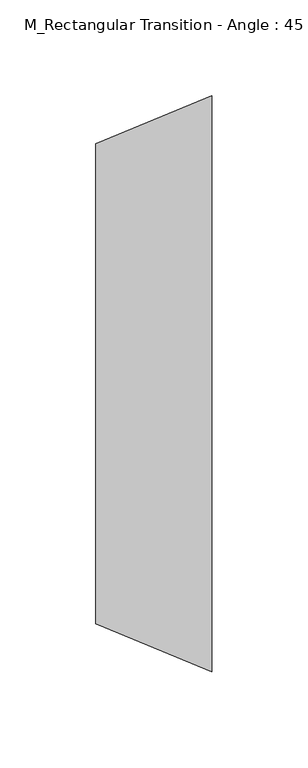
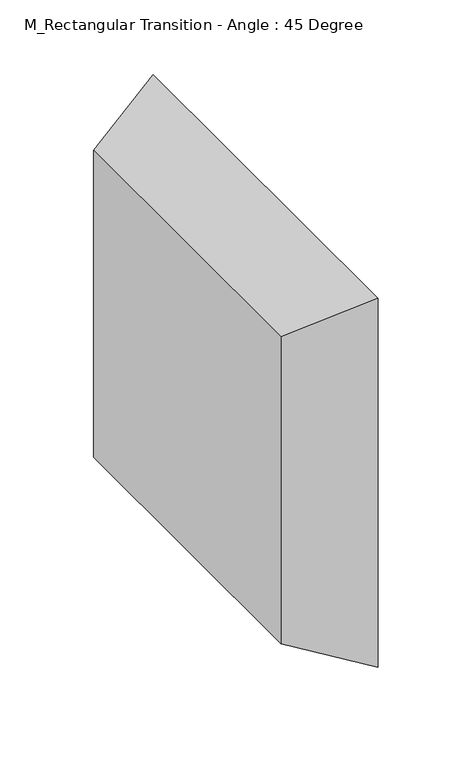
"""IFC4 building model written with IfcOpenShell, lengths in millimetres: duct fitting geometry, M_Rectangular Transition - Angle : 45 Degree."""

from ifc_helpers import new_model, si_unit, origin, place, context, project, spatial, faceted_brep, source, transform, mapped, element, save


def m_rectangular_transition_angle_45_degree_46cb5fbc(model_context):
    return source(origin(), model_context, "Body", "Brep", [
        faceted_brep([(60.3553391, -150.0, 150.0), (60.3553391, -150.0, -150.0), (60.3553391, 150.0, -150.0), (60.3553391, 150.0, 150.0), (0.0, -125.0, 125.0), (0.0, 125.0, 125.0), (0.0, 125.0, -125.0), (0.0, -125.0, -125.0)], [[[0, 1, 2, 3]], [[4, 5, 6, 7]], [[4, 7, 1, 0]], [[7, 6, 2, 1]], [[6, 5, 3, 2]], [[5, 4, 0, 3]]]),
        faceted_brep([(60.3553391, -150.0, 150.0), (60.3553391, -150.0, -150.0), (60.3553391, 150.0, -150.0), (60.3553391, 150.0, 150.0), (0.0, -125.0, 125.0), (0.0, 125.0, 125.0), (0.0, 125.0, -125.0), (0.0, -125.0, -125.0)], [[[0, 1, 2, 3]], [[4, 5, 6, 7]], [[4, 7, 1, 0]], [[7, 6, 2, 1]], [[6, 5, 3, 2]], [[5, 4, 0, 3]]]),
        faceted_brep([(60.3553391, -150.0, 150.0), (60.3553391, -150.0, -150.0), (60.3553391, 150.0, -150.0), (60.3553391, 150.0, 150.0), (0.0, -125.0, 125.0), (0.0, 125.0, 125.0), (0.0, 125.0, -125.0), (0.0, -125.0, -125.0)], [[[0, 1, 2, 3]], [[4, 5, 6, 7]], [[4, 7, 1, 0]], [[7, 6, 2, 1]], [[6, 5, 3, 2]], [[5, 4, 0, 3]]]),
    ])


if __name__ == "__main__":
    model = new_model("IFC4")
    model_context = context("Model", 3, world=origin())
    ifc_project = project(units=[si_unit("LENGTHUNIT", "METRE", prefix="MILLI")], contexts=[model_context])
    site = spatial("IfcSite", under=ifc_project)
    building = spatial("IfcBuilding", under=site)
    placement = place(None, origin())
    m_rectangular_transition_angle_45_degree_shape = m_rectangular_transition_angle_45_degree_46cb5fbc(model_context)
    element("IfcDuctFitting", 1, ObjectType="M_Rectangular Transition - Angle : 45 Degree", at=placement, inside=building, context=model_context, shape_type="MappedRepresentation", body=[
        mapped(m_rectangular_transition_angle_45_degree_shape, transform((0.0, 0.0, 0.0), x_axis=(1.0, 0.0, 0.0), y_axis=(0.0, 1.0, 0.0), z_axis=(0.0, 0.0, 1.0))),
    ])
    save(model, "model.ifc")
